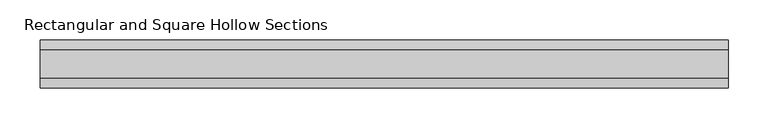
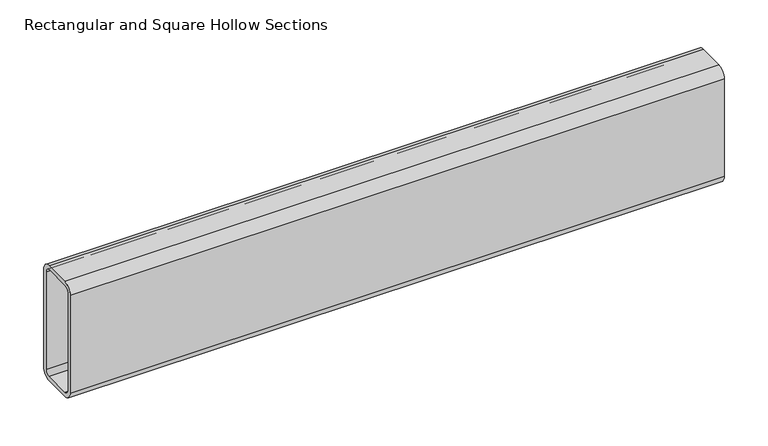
"""IFC4 building model written with IfcOpenShell, lengths in millimetres: beam geometry, Rectangular and Square Hollow Sections : TREC160x60x6."""

from ifc_helpers import new_model, si_unit, point, frame, frame_2d, origin, place, context, project, spatial, polyline, circle_curve, trimmed, segment, composite_curve, outline, extrude, source, transform, mapped, element, save


def rectangular_and_square_hollow_sections_436037d0(model_context):
    return source(origin(), model_context, "Body", "SweptSolid", [
        extrude(outline(composite_curve([segment(polyline([(30.0, 68.0), (30.0, -68.0)]), True, "CONTINUOUS"), segment(trimmed(circle_curve(frame_2d((18.0, -68.0)), 12.0), [point((30.0, -68.0))], [point((18.0, -80.0))], False, "CARTESIAN"), True, "CONTINUOUS"), segment(polyline([(18.0, -80.0), (-18.0, -80.0)]), True, "CONTINUOUS"), segment(trimmed(circle_curve(frame_2d((-18.0, -68.0)), 12.0), [point((-18.0, -80.0))], [point((-30.0, -68.0))], False, "CARTESIAN"), True, "CONTINUOUS"), segment(polyline([(-30.0, -68.0), (-30.0, 68.0)]), True, "CONTINUOUS"), segment(trimmed(circle_curve(frame_2d((-18.0, 68.0)), 12.0), [point((-30.0, 68.0))], [point((-18.0, 80.0))], False, "CARTESIAN"), True, "CONTINUOUS"), segment(polyline([(-18.0, 80.0), (18.0, 80.0)]), True, "CONTINUOUS"), segment(trimmed(circle_curve(frame_2d((18.0, 68.0)), 12.0), [point((18.0, 80.0))], [point((30.0, 68.0))], False, "CARTESIAN"), True, "CONTINUOUS")], self_intersect=False), holes=[composite_curve([segment(trimmed(circle_curve(frame_2d((-18.0, 68.0)), 6.0), [point((-18.0, 74.0))], [point((-24.0, 68.0))], True, "CARTESIAN"), True, "CONTINUOUS"), segment(polyline([(-24.0, 68.0), (-24.0, -68.0)]), True, "CONTINUOUS"), segment(trimmed(circle_curve(frame_2d((-18.0, -68.0)), 6.0), [point((-24.0, -68.0))], [point((-18.0, -74.0))], True, "CARTESIAN"), True, "CONTINUOUS"), segment(polyline([(-18.0, -74.0), (18.0, -74.0)]), True, "CONTINUOUS"), segment(trimmed(circle_curve(frame_2d((18.0, -68.0)), 6.0), [point((18.0, -74.0))], [point((24.0, -68.0))], True, "CARTESIAN"), True, "CONTINUOUS"), segment(polyline([(24.0, -68.0), (24.0, 68.0)]), True, "CONTINUOUS"), segment(trimmed(circle_curve(frame_2d((18.0, 68.0)), 6.0), [point((24.0, 68.0))], [point((18.0, 74.0))], True, "CARTESIAN"), True, "CONTINUOUS"), segment(polyline([(18.0, 74.0), (-18.0, 74.0)]), True, "CONTINUOUS")], self_intersect=False)]), frame((-430.0, 0.0, 0.0), z_axis=(1.0, 0.0, 0.0), x_axis=(0.0, 1.0, 0.0)), (0.0, 0.0, 1.0), 860.0),
    ])


if __name__ == "__main__":
    model = new_model("IFC4")
    model_context = context("Model", 3, world=origin())
    ifc_project = project(units=[si_unit("LENGTHUNIT", "METRE", prefix="MILLI")], contexts=[model_context])
    site = spatial("IfcSite", under=ifc_project)
    building = spatial("IfcBuilding", under=site)
    placement = place(None, origin())
    rectangular_and_square_hollow_sections_shape = rectangular_and_square_hollow_sections_436037d0(model_context)
    element("IfcBeam", 1, ObjectType="Rectangular and Square Hollow Sections : TREC160x60x6", at=placement, inside=building, context=model_context, shape_type="MappedRepresentation", body=[
        mapped(rectangular_and_square_hollow_sections_shape, transform((0.0, 0.0, 0.0), x_axis=(1.0, 0.0, 0.0), y_axis=(0.0, 1.0, 0.0), z_axis=(0.0, 0.0, 1.0))),
    ])
    save(model, "model.ifc")
